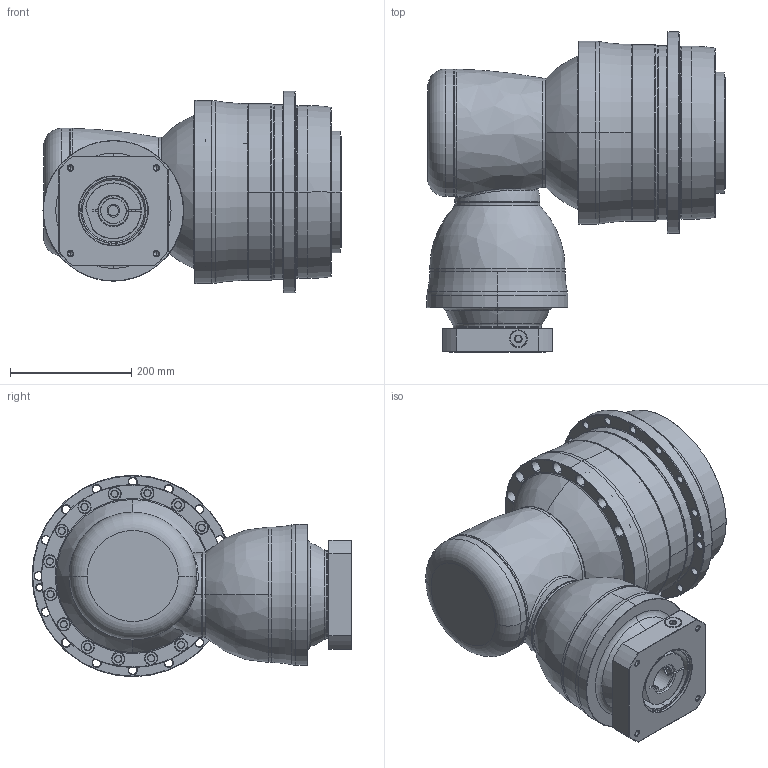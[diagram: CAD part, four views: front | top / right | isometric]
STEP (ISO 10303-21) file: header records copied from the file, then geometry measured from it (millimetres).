
FILE_DESCRIPTION((''),'2;1');
FILE_NAME('AHK285_4ST_42-P0409A00101_ASM','2016-08-23T',('d01943'),(''),'PRO/ENGINEER BY PARAMETRIC TECHNOLOGY CORPORATION, 2008410','PRO/ENGINEER BY PARAMETRIC TECHNOLOGY CORPORATION, 2008410','');
FILE_SCHEMA(('CONFIG_CONTROL_DESIGN'));
Length unit declared in the file: millimetre
Products named in the file (12): P1008600002; P1832800001; P0278800003; P0359800003; P1315600001; P1007600001; P1317600501; P0409A00101; P0503A00012; P0912505201; 21711422019; AHK285_4ST_42-P0409A00101_ASM
Assembly tree (11 placements, depth 2):
  AHK285_4ST_42-P0409A00101_ASM
    P1008600002
    P1832800001
    P0278800003
    P0359800003
    P1315600001
    P1007600001
    P1317600501
    P0409A00101
    P0503A00012
    P0912505201
    21711422019
Bounding box: 491 x 527 x 332 mm (x, y, z)
Volume: 24042781.9 mm3; surface area: 1680704 mm2
Topology: 12 solids, 12 shells, 1064 faces, 2397 edges, 1383 vertices
Faces by surface type: cone 382, cylinder 372, plane 143, torus 126, bspline 39, sphere 2
Entity records: 36234 total; most frequent: CARTESIAN_POINT 11888, DIRECTION 5598, ORIENTED_EDGE 4650, AXIS2_PLACEMENT_3D 2386, EDGE_CURVE 2325, VERTEX_POINT 1383, CIRCLE 1338, EDGE_LOOP 1260
